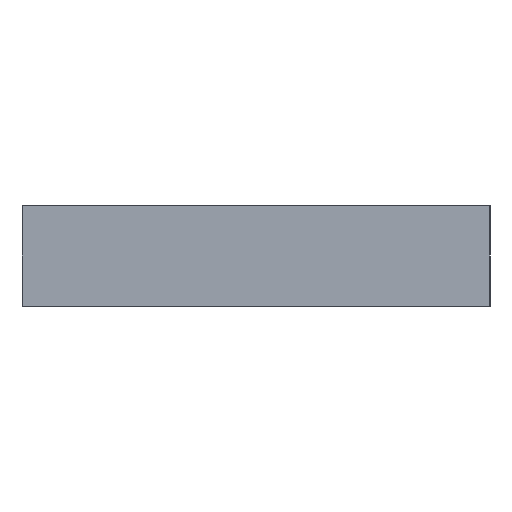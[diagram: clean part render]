
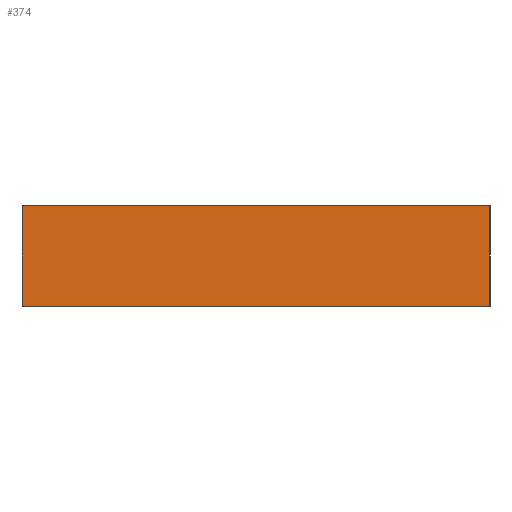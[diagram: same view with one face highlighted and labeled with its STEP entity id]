
A CAD part, front view. The second image highlights one B-rep face of the part: STEP entity #374.
In plain terms, the highlighted planar face has unit normal (0, -1, 0).
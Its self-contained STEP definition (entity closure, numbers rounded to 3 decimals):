
#4 = FACE_OUTER_BOUND ( 'NONE', #50, .T. ) ;
#17 = ORIENTED_EDGE ( 'NONE', *, *, #475, .F. ) ;
#25 = CARTESIAN_POINT ( 'NONE',  ( 0., -358.5, 3. ) ) ;
#26 = LINE ( 'NONE', #243, #347 ) ;
#50 = EDGE_LOOP ( 'NONE', ( #307, #461, #17, #183 ) ) ;
#75 = VERTEX_POINT ( 'NONE', #506 ) ;
#85 = EDGE_CURVE ( 'NONE', #75, #127, #26, .T. ) ;
#97 = CARTESIAN_POINT ( 'NONE',  ( -7., -358.5, 0. ) ) ;
#107 = CARTESIAN_POINT ( 'NONE',  ( 7., -358.5, 0. ) ) ;
#127 = VERTEX_POINT ( 'NONE', #107 ) ;
#138 = LINE ( 'NONE', #332, #480 ) ;
#145 = DIRECTION ( 'NONE',  ( 0., 0., 1. ) ) ;
#174 = AXIS2_PLACEMENT_3D ( 'NONE', #276, #412, #145 ) ;
#183 = ORIENTED_EDGE ( 'NONE', *, *, #528, .T. ) ;
#204 = CARTESIAN_POINT ( 'NONE',  ( -7., -358.5, 3. ) ) ;
#209 = DIRECTION ( 'NONE',  ( 1., 0., 0. ) ) ;
#243 = CARTESIAN_POINT ( 'NONE',  ( 7., -358.5, 3. ) ) ;
#276 = CARTESIAN_POINT ( 'NONE',  ( 0., -358.5, 3. ) ) ;
#289 = LINE ( 'NONE', #25, #303 ) ;
#303 = VECTOR ( 'NONE', #423, 1000. ) ;
#307 = ORIENTED_EDGE ( 'NONE', *, *, #570, .T. ) ;
#332 = CARTESIAN_POINT ( 'NONE',  ( -7., -358.5, 3. ) ) ;
#347 = VECTOR ( 'NONE', #373, 1000. ) ;
#373 = DIRECTION ( 'NONE',  ( 0., 0., -1. ) ) ;
#374 = ADVANCED_FACE ( 'NONE', ( #4 ), #457, .F. ) ;
#385 = CARTESIAN_POINT ( 'NONE',  ( 0., -358.5, 0. ) ) ;
#399 = VERTEX_POINT ( 'NONE', #97 ) ;
#412 = DIRECTION ( 'NONE',  ( 0., 1., 0. ) ) ;
#423 = DIRECTION ( 'NONE',  ( 1., 0., 0. ) ) ;
#424 = DIRECTION ( 'NONE',  ( 0., 0., -1. ) ) ;
#453 = VECTOR ( 'NONE', #209, 1000. ) ;
#457 = PLANE ( 'NONE',  #174 ) ;
#461 = ORIENTED_EDGE ( 'NONE', *, *, #85, .F. ) ;
#475 = EDGE_CURVE ( 'NONE', #507, #75, #289, .T. ) ;
#480 = VECTOR ( 'NONE', #424, 1000. ) ;
#506 = CARTESIAN_POINT ( 'NONE',  ( 7., -358.5, 3. ) ) ;
#507 = VERTEX_POINT ( 'NONE', #204 ) ;
#528 = EDGE_CURVE ( 'NONE', #507, #399, #138, .T. ) ;
#570 = EDGE_CURVE ( 'NONE', #399, #127, #574, .T. ) ;
#574 = LINE ( 'NONE', #385, #453 ) ;
